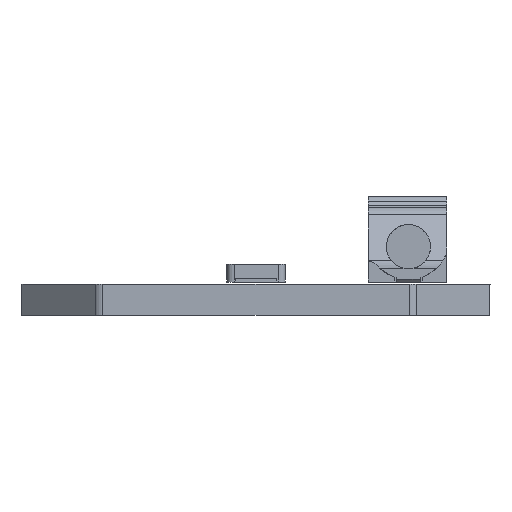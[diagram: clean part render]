
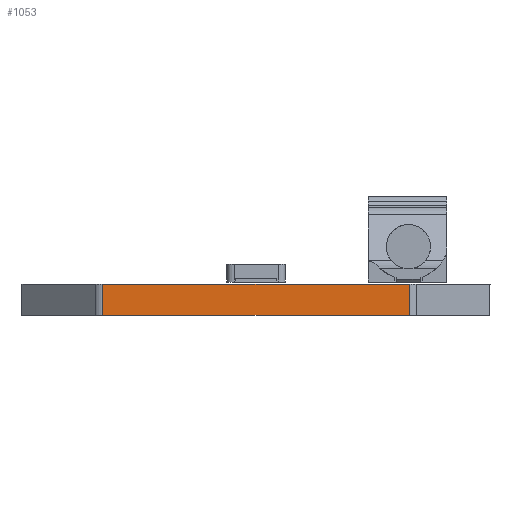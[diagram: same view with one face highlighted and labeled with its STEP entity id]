
A CAD part, left-side view. The second image highlights one B-rep face of the part: STEP entity #1053.
In plain terms, the highlighted planar face has unit normal (-1, 0, 0).
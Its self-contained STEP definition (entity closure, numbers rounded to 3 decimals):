
#250=DIRECTION('',(0.,0.,-1.));
#251=VECTOR('',#250,1.6);
#252=CARTESIAN_POINT('',(0.,19.701,1.6));
#253=LINE('',#252,#251);
#264=DIRECTION('',(0.,1.,0.));
#265=VECTOR('',#264,15.603);
#266=CARTESIAN_POINT('',(0.,4.099,1.6));
#267=LINE('',#266,#265);
#278=DIRECTION('',(0.,0.,1.));
#279=VECTOR('',#278,1.6);
#280=CARTESIAN_POINT('',(0.,4.099,0.));
#281=LINE('',#280,#279);
#405=DIRECTION('',(0.,-1.,0.));
#406=VECTOR('',#405,15.603);
#407=CARTESIAN_POINT('',(0.,19.701,0.));
#408=LINE('',#407,#406);
#822=CARTESIAN_POINT('',(0.,4.099,1.6));
#823=VERTEX_POINT('',#822);
#824=CARTESIAN_POINT('',(0.,19.701,1.6));
#825=VERTEX_POINT('',#824);
#846=CARTESIAN_POINT('',(0.,19.701,0.));
#847=VERTEX_POINT('',#846);
#848=CARTESIAN_POINT('',(0.,4.099,0.));
#849=VERTEX_POINT('',#848);
#1040=CARTESIAN_POINT('',(0.,11.9,0.8));
#1041=DIRECTION('',(1.,0.,0.));
#1042=DIRECTION('',(0.,-1.,0.));
#1043=AXIS2_PLACEMENT_3D('',#1040,#1041,#1042);
#1044=PLANE('',#1043);
#1045=ORIENTED_EDGE('',*,*,#970,.F.);
#1047=ORIENTED_EDGE('',*,*,#1046,.F.);
#1049=ORIENTED_EDGE('',*,*,#1048,.F.);
#1050=ORIENTED_EDGE('',*,*,#1032,.F.);
#1051=EDGE_LOOP('',(#1045,#1047,#1049,#1050));
#1052=FACE_OUTER_BOUND('',#1051,.F.);
#970=EDGE_CURVE('',#823,#825,#267,.T.);
#1032=EDGE_CURVE('',#825,#847,#253,.T.);
#1046=EDGE_CURVE('',#849,#823,#281,.T.);
#1048=EDGE_CURVE('',#847,#849,#408,.T.);
#1053=ADVANCED_FACE('',(#1052),#1044,.F.);
